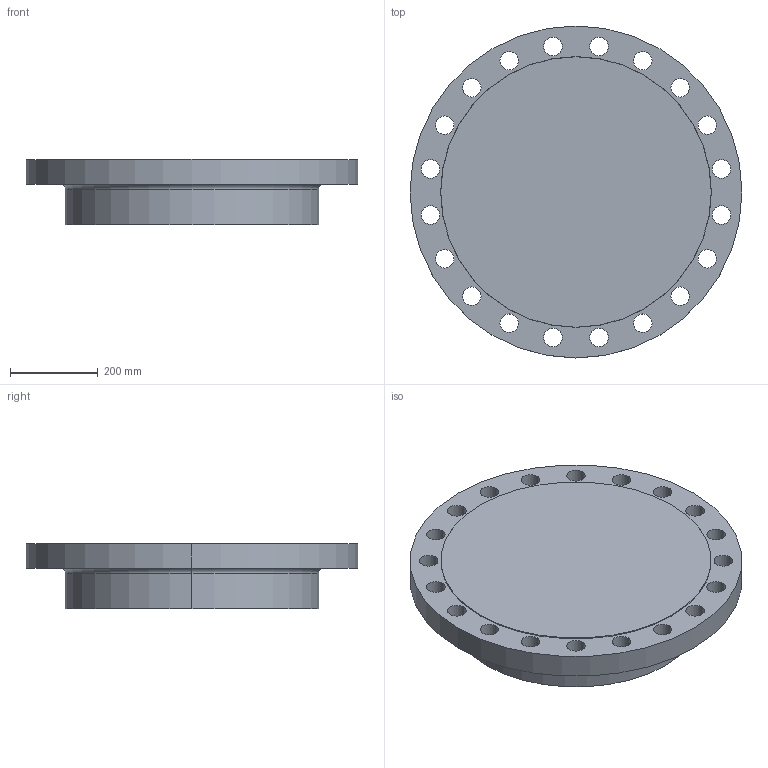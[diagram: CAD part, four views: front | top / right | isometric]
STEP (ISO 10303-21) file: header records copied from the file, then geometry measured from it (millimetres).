
FILE_DESCRIPTION (( 'STEP AP214' ), '1' );
FILE_NAME ('PN40 DN500 Type 21(i) - Type B Face.STEP', '2018-12-29T04:27:02', ( '' ), ( '' ), 'SwSTEP 2.0', 'SolidWorks 2019', '' );
FILE_SCHEMA (( 'AUTOMOTIVE_DESIGN' ));
Length unit declared in the file: millimetre
Products named in the file (1): PN40 DN500 Type 21(i) - Type B Face
Bounding box: 755 x 755 x 150 mm (x, y, z)
Volume: 47984154.7 mm3; surface area: 1277848.8 mm2
Topology: 1 solids, 1 shells, 52 faces, 142 edges, 94 vertices
Faces by surface type: cylinder 44, plane 4, torus 2, cone 2
Entity records: 1820 total; most frequent: DIRECTION 344, CARTESIAN_POINT 289, ORIENTED_EDGE 284, AXIS2_PLACEMENT_3D 149, EDGE_CURVE 142, CIRCLE 96, EDGE_LOOP 94, VERTEX_POINT 94
